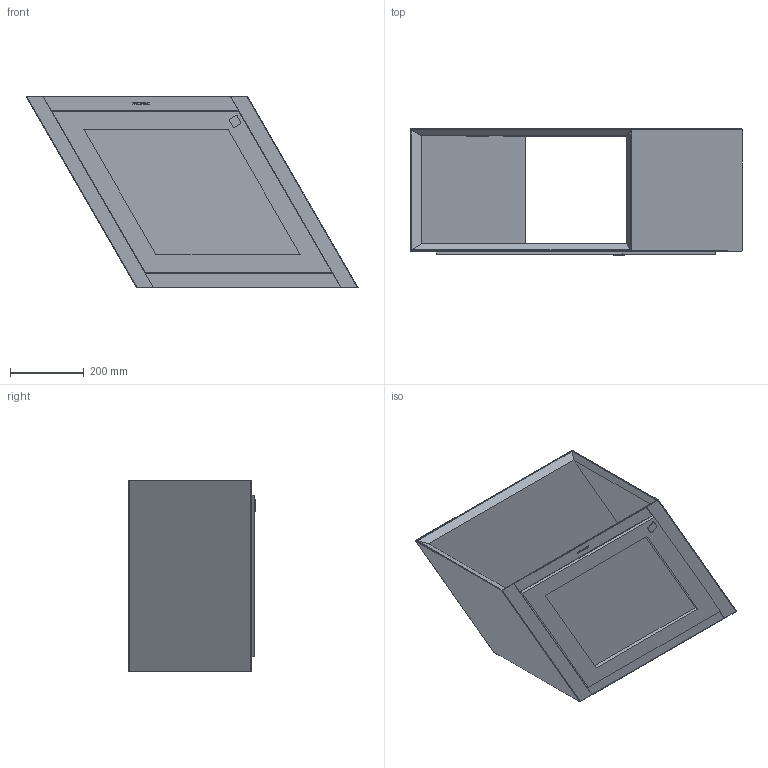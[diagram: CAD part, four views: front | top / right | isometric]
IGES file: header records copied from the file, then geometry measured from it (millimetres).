
Start section: SolidWorks IGES file using analytic representation for surfaces
Global section: file name: \\utenti\Dati Utenti\Tecnico\DC\2D - 3D per sito\3D\DeCastelli-3D-Alpha.igs; native system: SolidWorks 2022; preprocessor: SolidWorks 2022; author: Simonep; date: 240729.120116; units: millimetre
Bounding box: 903.24 x 344.65 x 521.63 mm (x, y, z)
Surface area: 2921235.6 mm2 (no closed solid volume)
Topology: 0 solids, 0 shells, 75 faces, 630 edges, 630 vertices
Faces by surface type: bspline 65, revolution 10
